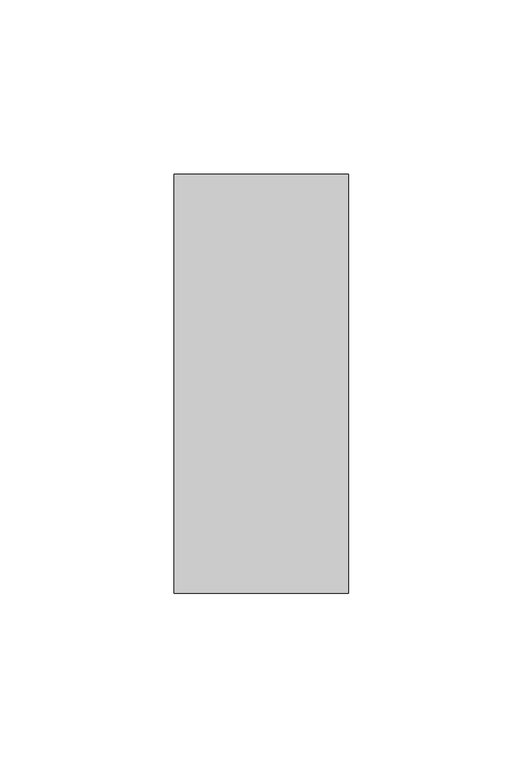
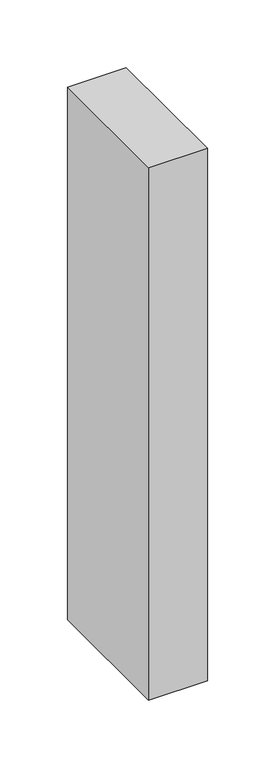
"""IFC4 building model written with IfcOpenShell, lengths in millimetres: member geometry, Прямоугольный импост : 50х120 мм."""

from ifc_helpers import new_model, si_unit, frame, origin, place, context, project, spatial, polyline, outline, extrude, source, transform, mapped, element, save


def member_1561aec9(model_context):
    return source(origin(), model_context, "Body", "SweptSolid", [
        extrude(outline(polyline([(0.0, 60.0), (0.0, -60.0), (-50.0, -60.0), (-50.0, 60.0), (0.0, 60.0)])), frame((0.0, 0.0, -480.0), z_axis=(0.0, 0.0, 1.0), x_axis=(1.0, 0.0, 0.0)), (0.0, 0.0, 1.0), 480.0),
    ])


if __name__ == "__main__":
    model = new_model("IFC4")
    model_context = context("Model", 3, world=origin())
    ifc_project = project(units=[si_unit("LENGTHUNIT", "METRE", prefix="MILLI")], contexts=[model_context])
    site = spatial("IfcSite", under=ifc_project)
    building = spatial("IfcBuilding", under=site)
    placement = place(None, origin())
    member_shape = member_1561aec9(model_context)
    element("IfcMember", 1, ObjectType="Прямоугольный импост : 50х120 мм", at=placement, inside=building, context=model_context, shape_type="MappedRepresentation", body=[
        mapped(member_shape, transform((0.0, 0.0, 0.0), x_axis=(1.0, 0.0, 0.0), y_axis=(0.0, 1.0, 0.0), z_axis=(0.0, 0.0, 1.0))),
    ])
    save(model, "model.ifc")
